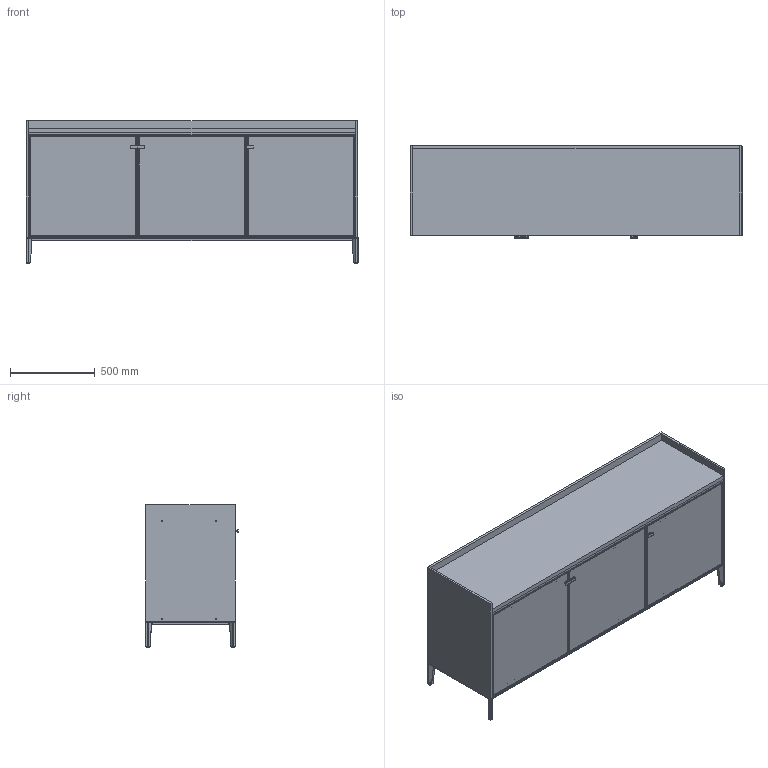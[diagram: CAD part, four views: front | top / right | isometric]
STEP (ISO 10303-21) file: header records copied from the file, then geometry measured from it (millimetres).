
FILE_DESCRIPTION(/* description */ (''),/* implementation_level */ '2;1');
FILE_NAME(/* name */ '3D_Segesta-196',/* time_stamp */ '2025-04-04T17:31:58+02:00',/* author */ (''),/* organization */ (''),/* preprocessor_version */ 'ST-DEVELOPER v16.5',/* originating_system */ '',/* authorisation */ '');
FILE_SCHEMA (('AUTOMOTIVE_DESIGN'));
Length unit declared in the file: millimetre
Products named in the file (1): Document
Bounding box: 1962 x 547.66 x 845 mm (x, y, z)
Volume: 158383462.9 mm3; surface area: 21029364.3 mm2
Topology: 43 solids, 43 shells, 1597 faces, 4341 edges, 2794 vertices
Faces by surface type: bspline 863, plane 734
Entity records: 70396 total; most frequent: CARTESIAN_POINT 44371, ORIENTED_EDGE 8606, EDGE_CURVE 4303, VERTEX_POINT 2792, B_SPLINE_CURVE_WITH_KNOTS 2707, EDGE_LOOP 1719, ADVANCED_FACE 1597, FACE_OUTER_BOUND 1597
